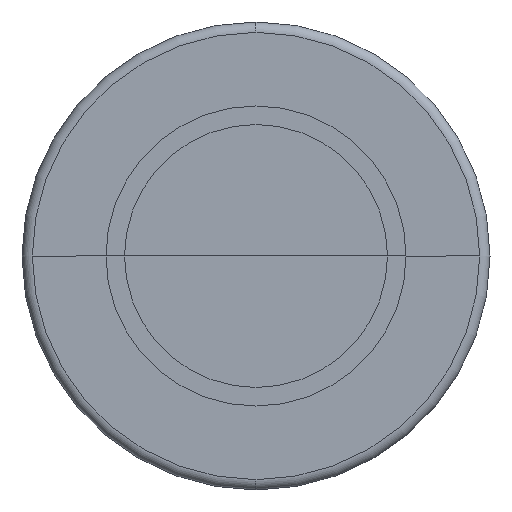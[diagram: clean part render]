
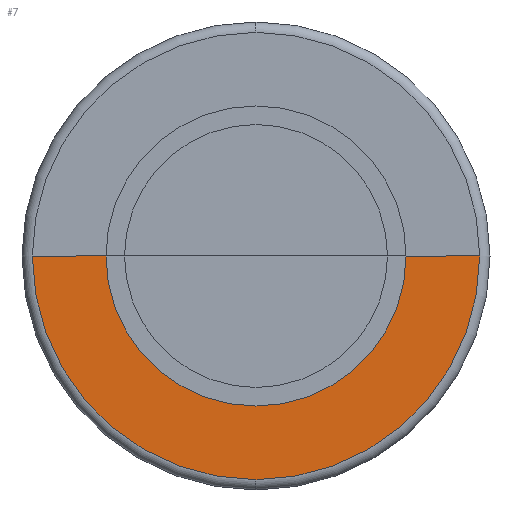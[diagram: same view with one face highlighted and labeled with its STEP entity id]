
A CAD part, left-side view. The second image highlights one B-rep face of the part: STEP entity #7.
In plain terms, the highlighted planar face has unit normal (-1, 0, 0).
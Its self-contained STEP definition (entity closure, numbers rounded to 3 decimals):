
#7 = ADVANCED_FACE ( 'NONE', ( #165 ), #85, .T. ) ;
#37 = DIRECTION ( 'NONE',  ( 0., -1., 0. ) ) ;
#54 = CARTESIAN_POINT ( 'NONE',  ( -34.2, -14.49, 0. ) ) ;
#67 = CARTESIAN_POINT ( 'NONE',  ( -34.2, 0., 0. ) ) ;
#82 = ORIENTED_EDGE ( 'NONE', *, *, #246, .T. ) ;
#85 = PLANE ( 'NONE',  #723 ) ;
#104 = VERTEX_POINT ( 'NONE', #773 ) ;
#119 = CARTESIAN_POINT ( 'NONE',  ( -34.2, 0., 0. ) ) ;
#124 = CARTESIAN_POINT ( 'NONE',  ( -34.2, 0., 0. ) ) ;
#127 = ORIENTED_EDGE ( 'NONE', *, *, #327, .T. ) ;
#165 = FACE_OUTER_BOUND ( 'NONE', #850, .T. ) ;
#206 = AXIS2_PLACEMENT_3D ( 'NONE', #124, #386, #801 ) ;
#207 = CARTESIAN_POINT ( 'NONE',  ( -34.2, -21.6, 0. ) ) ;
#246 = EDGE_CURVE ( 'NONE', #104, #623, #702, .T. ) ;
#281 = EDGE_CURVE ( 'NONE', #613, #104, #379, .T. ) ;
#316 = DIRECTION ( 'NONE',  ( 0., -1., 0. ) ) ;
#323 = VECTOR ( 'NONE', #1028, 1000. ) ;
#327 = EDGE_CURVE ( 'NONE', #759, #927, #1037, .T. ) ;
#330 = DIRECTION ( 'NONE',  ( -1., 0., 0. ) ) ;
#379 = CIRCLE ( 'NONE', #206, 21.6 ) ;
#386 = DIRECTION ( 'NONE',  ( -1., 0., 0. ) ) ;
#408 = EDGE_CURVE ( 'NONE', #623, #759, #467, .T. ) ;
#416 = CARTESIAN_POINT ( 'NONE',  ( -34.2, 0., 0. ) ) ;
#422 = ORIENTED_EDGE ( 'NONE', *, *, #506, .T. ) ;
#428 = AXIS2_PLACEMENT_3D ( 'NONE', #67, #978, #316 ) ;
#448 = VECTOR ( 'NONE', #796, 1000. ) ;
#467 = CIRCLE ( 'NONE', #428, 14.49 ) ;
#506 = EDGE_CURVE ( 'NONE', #927, #613, #861, .T. ) ;
#535 = AXIS2_PLACEMENT_3D ( 'NONE', #119, #536, #37 ) ;
#536 = DIRECTION ( 'NONE',  ( -1., 0., 0. ) ) ;
#613 = VERTEX_POINT ( 'NONE', #810 ) ;
#623 = VERTEX_POINT ( 'NONE', #54 ) ;
#644 = CARTESIAN_POINT ( 'NONE',  ( -34.2, 14.49, 0. ) ) ;
#682 = CARTESIAN_POINT ( 'NONE',  ( -34.2, 21.6, 0. ) ) ;
#702 = LINE ( 'NONE', #207, #323 ) ;
#723 = AXIS2_PLACEMENT_3D ( 'NONE', #416, #330, #1066 ) ;
#759 = VERTEX_POINT ( 'NONE', #644 ) ;
#773 = CARTESIAN_POINT ( 'NONE',  ( -34.2, -21.6, 0. ) ) ;
#796 = DIRECTION ( 'NONE',  ( 0., 1., 0. ) ) ;
#801 = DIRECTION ( 'NONE',  ( 0., -1., 0. ) ) ;
#810 = CARTESIAN_POINT ( 'NONE',  ( -34.2, 0., -21.6 ) ) ;
#845 = ORIENTED_EDGE ( 'NONE', *, *, #408, .T. ) ;
#850 = EDGE_LOOP ( 'NONE', ( #127, #422, #906, #82, #845 ) ) ;
#861 = CIRCLE ( 'NONE', #535, 21.6 ) ;
#906 = ORIENTED_EDGE ( 'NONE', *, *, #281, .T. ) ;
#927 = VERTEX_POINT ( 'NONE', #682 ) ;
#957 = CARTESIAN_POINT ( 'NONE',  ( -34.2, 14.49, 0. ) ) ;
#978 = DIRECTION ( 'NONE',  ( 1., 0., 0. ) ) ;
#1028 = DIRECTION ( 'NONE',  ( 0., 1., 0. ) ) ;
#1037 = LINE ( 'NONE', #957, #448 ) ;
#1066 = DIRECTION ( 'NONE',  ( 0., 1., 0. ) ) ;
